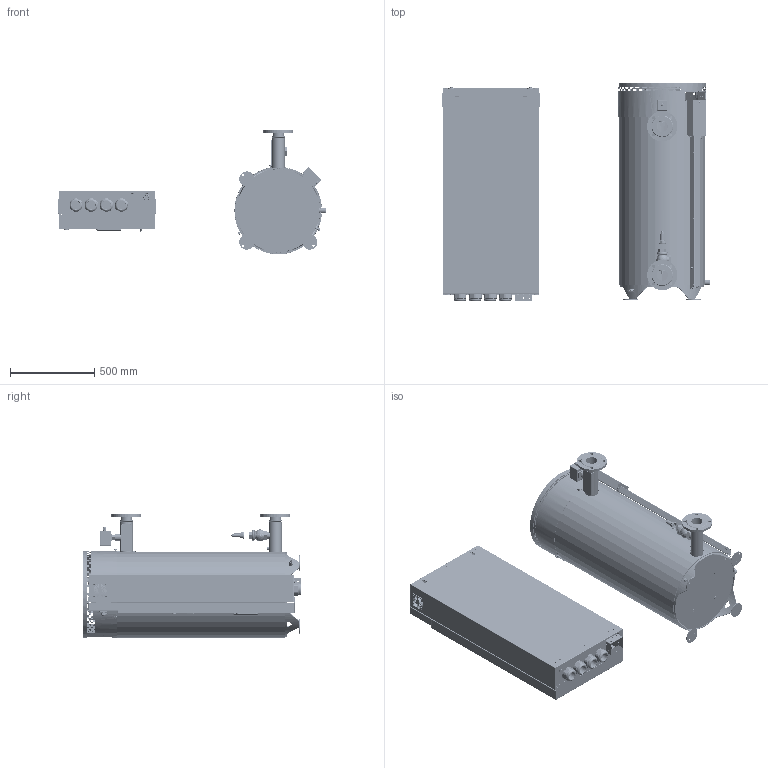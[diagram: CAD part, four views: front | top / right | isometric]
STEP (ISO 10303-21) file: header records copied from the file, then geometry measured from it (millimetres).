
FILE_DESCRIPTION(/* description */ (''),/* implementation_level */ '2;1');
FILE_NAME(/* name */ 'Z:\!!!Обмен файлами\Маркелова Л.В\Задача 193\275-300\Водонагреватель 275-300 кВт.stp',/* time_stamp */ '2023-07-10T12:45:49+03:00',/* author */ ('nvsk-constr2'),/* organization */ (''),/* preprocessor_version */ 'ST-DEVELOPER v18.1',/* originating_system */ 'Autodesk Inventor 2021',/* authorisation */ '');
FILE_SCHEMA (('AUTOMOTIVE_DESIGN { 1 0 10303 214 3 1 1 }'));
Products named in the file (3): Водонагреватель 
275-300 кВт; 421457.009 ШАУ-300_Shrinkwrap_1; 621179.010 АВП-НП-14_S
hrinkwrap_1
Assembly tree (2 placements, depth 2):
  Водонагреватель 
275-300 кВт
    421457.009 ШАУ-300_Shrinkwrap_1
    621179.010 АВП-НП-14_S
hrinkwrap_1
Bounding box: 1588.7 x 1297.44 x 739.75 mm (x, y, z)
Surface area: 15347654 mm2 (no closed solid volume)
Topology: 0 solids, 196 shells, 3773 faces, 12107 edges, 8414 vertices
Faces by surface type: plane 1930, cylinder 1268, cone 271, torus 164, bspline 98, sphere 42
Full cylindrical faces by diameter (mm): 3.242 x7, 3.5 x1, 4 x6, 4.2 x2, 4.317 x3, 4.5 x9, 5.9 x3, 6 x9, 6.5 x7, 7 x32, 7.119 x1, 7.834 x3, 7.967 x1, 8 x4, 8.376 x1, 8.5 x8, 8.8 x2, 9 x23, 9.936 x1, 10 x11, 11.433 x3, 11.5 x10, 11.63 x2, 12 x5, 13 x12, 13.562 x1, 14 x11, 14.367 x2, 14.63 x3, 14.778 x3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
Entity records: 160427 total; most frequent: CARTESIAN_POINT 45358, DIRECTION 23298, ORIENTED_EDGE 21599, EDGE_CURVE 12105, AXIS2_PLACEMENT_3D 8447, VERTEX_POINT 8414, LINE 6404, VECTOR 6404
